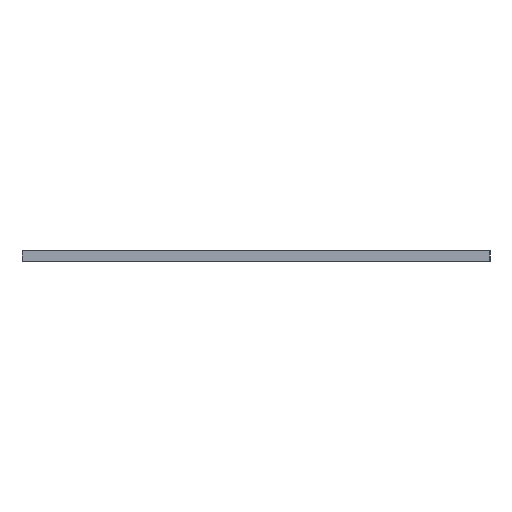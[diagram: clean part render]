
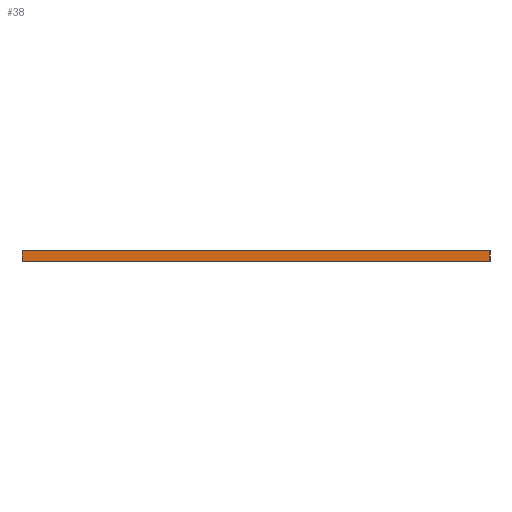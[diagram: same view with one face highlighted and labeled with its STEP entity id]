
A CAD part, left-side view. The second image highlights one B-rep face of the part: STEP entity #38.
In plain terms, the highlighted planar face has unit normal (-1, 0, 0).
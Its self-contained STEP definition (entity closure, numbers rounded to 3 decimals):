
#38=ADVANCED_FACE('',(#50),#354,.T.);
#50=FACE_OUTER_BOUND('',#62,.T.);
#62=EDGE_LOOP('',(#83,#84,#85,#86));
#83=ORIENTED_EDGE('',*,*,#247,.F.);
#84=ORIENTED_EDGE('',*,*,#249,.T.);
#85=ORIENTED_EDGE('',*,*,#239,.F.);
#86=ORIENTED_EDGE('',*,*,#250,.T.);
#119=PCURVE('',#351,#167);
#129=PCURVE('',#353,#177);
#131=PCURVE('',#354,#179);
#132=PCURVE('',#354,#180);
#133=PCURVE('',#354,#181);
#134=PCURVE('',#354,#182);
#138=PCURVE('',#355,#186);
#139=PCURVE('',#356,#187);
#167=DEFINITIONAL_REPRESENTATION('',(#264),#586);
#177=DEFINITIONAL_REPRESENTATION('',(#282),#586);
#179=DEFINITIONAL_REPRESENTATION('',(#285),#586);
#180=DEFINITIONAL_REPRESENTATION('',(#287),#586);
#181=DEFINITIONAL_REPRESENTATION('',(#288),#586);
#182=DEFINITIONAL_REPRESENTATION('',(#290),#586);
#186=DEFINITIONAL_REPRESENTATION('',(#294),#586);
#187=DEFINITIONAL_REPRESENTATION('',(#295),#586);
#215=SURFACE_CURVE('',#263,(#119,#133),.PCURVE_S1.);
#223=SURFACE_CURVE('',#281,(#129,#131),.PCURVE_S1.);
#225=SURFACE_CURVE('',#286,(#132,#139),.PCURVE_S1.);
#226=SURFACE_CURVE('',#289,(#134,#138),.PCURVE_S1.);
#239=EDGE_CURVE('',#335,#338,#215,.T.);
#247=EDGE_CURVE('',#342,#341,#223,.T.);
#249=EDGE_CURVE('',#342,#338,#225,.T.);
#250=EDGE_CURVE('',#335,#341,#226,.T.);
#263=B_SPLINE_CURVE_WITH_KNOTS('',1,(#427,#428),.UNSPECIFIED.,.F.,.F.,(2,
2),(0.,400.),.UNSPECIFIED.);
#264=B_SPLINE_CURVE_WITH_KNOTS('',1,(#429,#430),.UNSPECIFIED.,.F.,.F.,(2,
2),(0.,400.),.UNSPECIFIED.);
#281=B_SPLINE_CURVE_WITH_KNOTS('',1,(#463,#464),.UNSPECIFIED.,.F.,.F.,(2,
2),(-400.,0.),.UNSPECIFIED.);
#282=B_SPLINE_CURVE_WITH_KNOTS('',1,(#465,#466),.UNSPECIFIED.,.F.,.F.,(2,
2),(-400.,0.),.UNSPECIFIED.);
#285=B_SPLINE_CURVE_WITH_KNOTS('',1,(#471,#472),.UNSPECIFIED.,.F.,.F.,(2,
2),(-400.,0.),.UNSPECIFIED.);
#286=B_SPLINE_CURVE_WITH_KNOTS('',1,(#473,#474),.UNSPECIFIED.,.F.,.F.,(2,
2),(-50.,0.),.UNSPECIFIED.);
#287=B_SPLINE_CURVE_WITH_KNOTS('',1,(#475,#476),.UNSPECIFIED.,.F.,.F.,(2,
2),(-50.,0.),.UNSPECIFIED.);
#288=B_SPLINE_CURVE_WITH_KNOTS('',1,(#477,#478),.UNSPECIFIED.,.F.,.F.,(2,
2),(0.,400.),.UNSPECIFIED.);
#289=B_SPLINE_CURVE_WITH_KNOTS('',1,(#479,#480),.UNSPECIFIED.,.F.,.F.,(2,
2),(0.,50.),.UNSPECIFIED.);
#290=B_SPLINE_CURVE_WITH_KNOTS('',1,(#481,#482),.UNSPECIFIED.,.F.,.F.,(2,
2),(0.,50.),.UNSPECIFIED.);
#294=B_SPLINE_CURVE_WITH_KNOTS('',1,(#489,#490),.UNSPECIFIED.,.F.,.F.,(2,
2),(0.,50.),.UNSPECIFIED.);
#295=B_SPLINE_CURVE_WITH_KNOTS('',1,(#491,#492),.UNSPECIFIED.,.F.,.F.,(2,
2),(-50.,0.),.UNSPECIFIED.);
#335=VERTEX_POINT('',#419);
#338=VERTEX_POINT('',#422);
#341=VERTEX_POINT('',#425);
#342=VERTEX_POINT('',#426);
#351=PLANE('',#383);
#353=PLANE('',#385);
#354=PLANE('',#386);
#355=PLANE('',#387);
#356=PLANE('',#388);
#383=AXIS2_PLACEMENT_3D('',#413,#398,$);
#385=AXIS2_PLACEMENT_3D('',#415,#400,$);
#386=AXIS2_PLACEMENT_3D('',#416,#401,$);
#387=AXIS2_PLACEMENT_3D('',#417,#402,$);
#388=AXIS2_PLACEMENT_3D('',#418,#403,$);
#398=DIRECTION('',(0.,0.,-1.));
#400=DIRECTION('',(0.,0.,1.));
#401=DIRECTION('',(-1.,0.,0.));
#402=DIRECTION('',(0.,-1.,0.));
#403=DIRECTION('',(0.,1.,0.));
#413=CARTESIAN_POINT('',(-810.,-545.,-180.));
#415=CARTESIAN_POINT('',(-770.,-545.,-160.));
#416=CARTESIAN_POINT('',(-810.,-545.,-160.));
#417=CARTESIAN_POINT('',(-810.,-545.,-180.));
#418=CARTESIAN_POINT('',(-810.,315.,-180.));
#419=CARTESIAN_POINT('',(-810.,-545.,-180.));
#422=CARTESIAN_POINT('',(-810.,315.,-180.));
#425=CARTESIAN_POINT('',(-810.,-545.,-160.));
#426=CARTESIAN_POINT('',(-810.,315.,-160.));
#427=CARTESIAN_POINT('',(-810.,-545.,-180.));
#428=CARTESIAN_POINT('',(-810.,315.,-180.));
#429=CARTESIAN_POINT('',(0.,-200.));
#430=CARTESIAN_POINT('',(400.,-200.));
#463=CARTESIAN_POINT('',(-810.,315.,-160.));
#464=CARTESIAN_POINT('',(-810.,-545.,-160.));
#465=CARTESIAN_POINT('',(400.,-50.));
#466=CARTESIAN_POINT('',(0.,-50.));
#471=CARTESIAN_POINT('',(400.,-50.));
#472=CARTESIAN_POINT('',(0.,-50.));
#473=CARTESIAN_POINT('',(-810.,315.,-160.));
#474=CARTESIAN_POINT('',(-810.,315.,-180.));
#475=CARTESIAN_POINT('',(400.,-50.));
#476=CARTESIAN_POINT('',(400.,0.));
#477=CARTESIAN_POINT('',(0.,0.));
#478=CARTESIAN_POINT('',(400.,0.));
#479=CARTESIAN_POINT('',(-810.,-545.,-180.));
#480=CARTESIAN_POINT('',(-810.,-545.,-160.));
#481=CARTESIAN_POINT('',(0.,0.));
#482=CARTESIAN_POINT('',(0.,-50.));
#489=CARTESIAN_POINT('',(0.,0.));
#490=CARTESIAN_POINT('',(0.,20.));
#491=CARTESIAN_POINT('',(20.,0.));
#492=CARTESIAN_POINT('',(0.,0.));
#586=(
GEOMETRIC_REPRESENTATION_CONTEXT(2)
PARAMETRIC_REPRESENTATION_CONTEXT()
REPRESENTATION_CONTEXT('pspace','')
);
